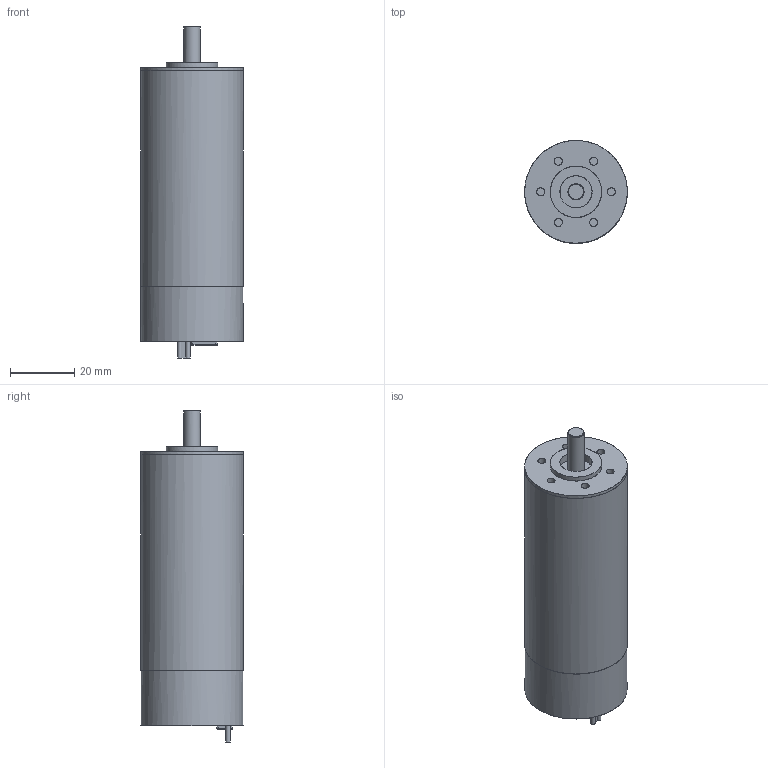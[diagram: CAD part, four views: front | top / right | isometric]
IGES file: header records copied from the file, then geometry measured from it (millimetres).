
Global section: file name: R:\a_public\Organisationsentwicklung\Aufgaben\CAD_Modelle_Vertrieb\Kombi\32xx_Bx4_SCDC\3268.BX4_SCDC.igs; native system: NX V7.5; preprocessor: SIEMENS PLM Software NX 7.5; author: DR. FRITZ FAULHABER GmbH & Co. KG; organization: DR. FRITZ FAULHABER GmbH & Co. KG; date: 20121031.085858; units: millimetre
Bounding box: 32 x 32 x 103.4 mm (x, y, z)
Surface area: 10838 mm2 (no closed solid volume)
Topology: 0 solids, 0 shells, 52 faces, 482 edges, 456 vertices
Faces by surface type: bspline 52
